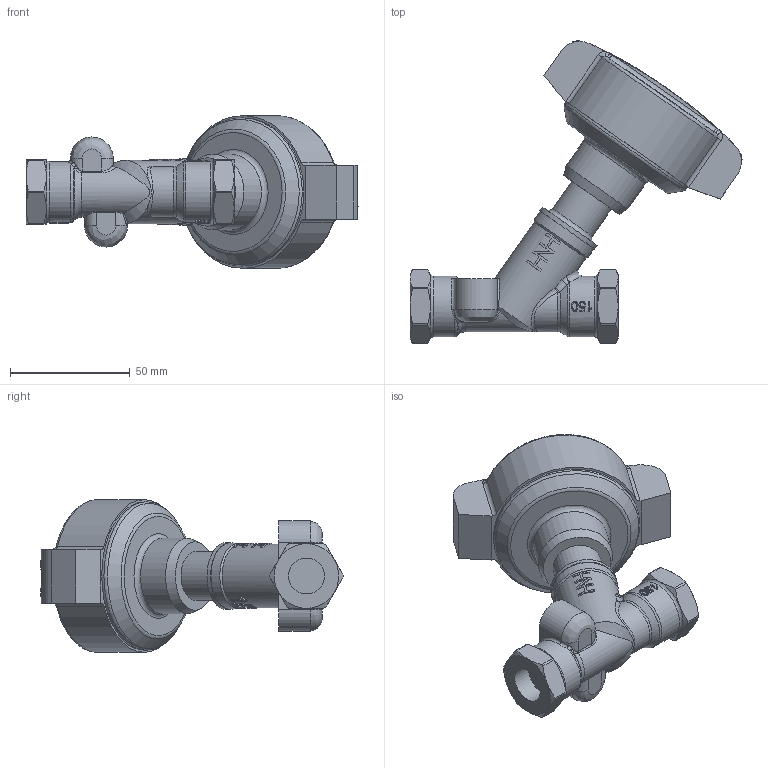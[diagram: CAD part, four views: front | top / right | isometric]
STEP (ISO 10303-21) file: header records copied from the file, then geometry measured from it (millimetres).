
FILE_DESCRIPTION((''),'2;1');
FILE_NAME('P:\Fastrack\53972_CRANE 3D\Workspace\HATTERSLEY\Fig-1432_1-2in\Fig-1432_1-2in.stp','2011-03-07T10:48:54',('btaylor'),(''),'Autodesk Inventor 2008','Autodesk Inventor 2008','');
FILE_SCHEMA(('AUTOMOTIVE_DESIGN { 1 0 10303 214 1 1 1 1 }'));
Length unit declared in the file: millimetre
Products named in the file (1): Fig-1432_1-2in
Bounding box: 138.78 x 126.41 x 63.85 mm (x, y, z)
Volume: 198845.5 mm3; surface area: 29947.4 mm2
Topology: 1 solids, 1 shells, 611 faces, 1599 edges, 1042 vertices
Faces by surface type: plane 281, bspline 218, cylinder 86, cone 20, torus 6
Full cylindrical faces by diameter (mm): 20.3 x1, 25.4 x2, 26.4 x1, 27.5 x1, 28 x1, 31.5 x1, 61.958 x1
Entity records: 61948 total; most frequent: CARTESIAN_POINT 47950, ORIENTED_EDGE 3142, DIRECTION 2031, EDGE_CURVE 1571, VERTEX_POINT 1035, VECTOR 765, LINE 765, EDGE_LOOP 693
